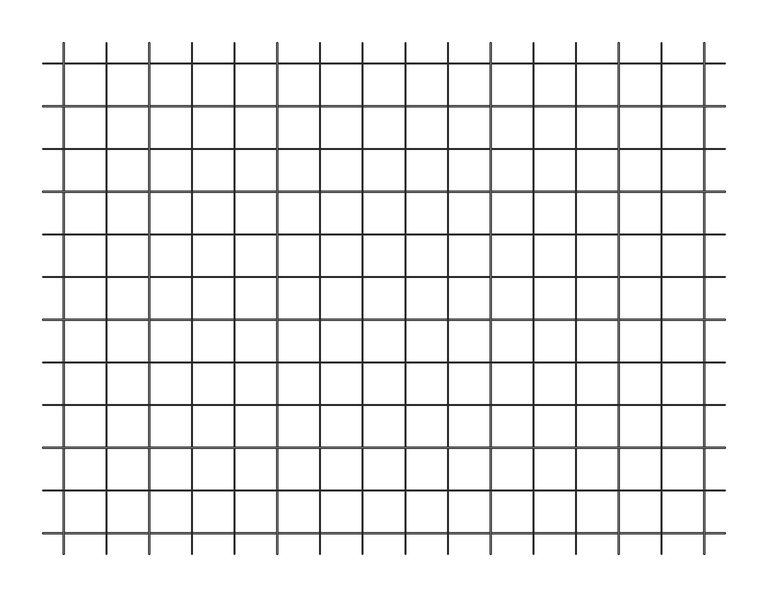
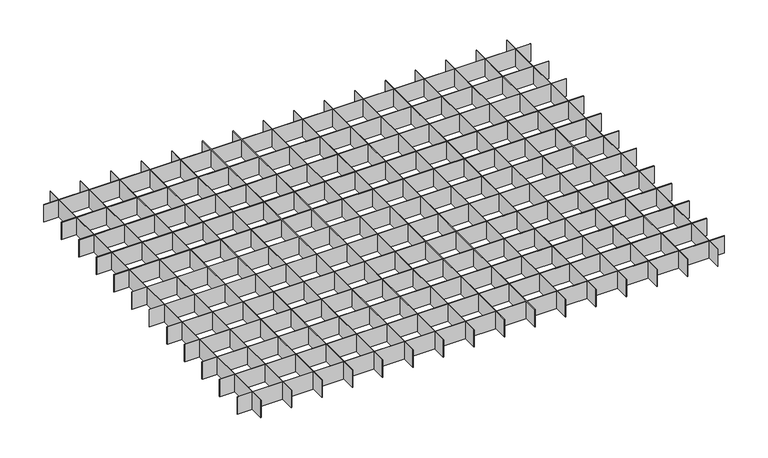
"""IFC4 building model written with IfcOpenShell, lengths in millimetres: proxy geometry, durlum_QUADRA_panel : durlum_QUADRA_length_cut."""

from ifc_helpers import new_model, si_unit, origin, origin_with_axes, place, context, project, spatial, polyline, outline, extrude, source, transform, mapped, element, save


def generic_models_9611325c(model_context):
    return source(origin(), model_context, "Body", "SweptSolid", [
        extrude(outline(polyline([(324.6, 299.5), (325.4, 299.5), (325.4, -299.5), (324.6, -299.5), (324.6, 299.5)])), origin_with_axes(), (0.0, 0.0, 1.0), 30.0),
        extrude(outline(polyline([(399.75, -224.6), (399.75, -225.4), (-399.75, -225.4), (-399.75, -224.6), (399.75, -224.6)])), origin_with_axes(), (0.0, 0.0, 1.0), 30.0),
        extrude(outline(polyline([(399.75, -174.6), (399.75, -175.4), (-399.75, -175.4), (-399.75, -174.6), (399.75, -174.6)])), origin_with_axes(), (0.0, 0.0, 1.0), 30.0),
        extrude(outline(polyline([(399.75, -124.6), (399.75, -125.4), (-399.75, -125.4), (-399.75, -124.6), (399.75, -124.6)])), origin_with_axes(), (0.0, 0.0, 1.0), 30.0),
        extrude(outline(polyline([(399.75, -74.6), (399.75, -75.4), (-399.75, -75.4), (-399.75, -74.6), (399.75, -74.6)])), origin_with_axes(), (0.0, 0.0, 1.0), 30.0),
        extrude(outline(polyline([(274.6, 299.5), (275.4, 299.5), (275.4, -299.5), (274.6, -299.5), (274.6, 299.5)])), origin_with_axes(), (0.0, 0.0, 1.0), 30.0),
        extrude(outline(polyline([(224.6, 299.5), (225.4, 299.5), (225.4, -299.5), (224.6, -299.5), (224.6, 299.5)])), origin_with_axes(), (0.0, 0.0, 1.0), 30.0),
        extrude(outline(polyline([(174.6, 299.5), (175.4, 299.5), (175.4, -299.5), (174.6, -299.5), (174.6, 299.5)])), origin_with_axes(), (0.0, 0.0, 1.0), 30.0),
        extrude(outline(polyline([(124.6, 299.5), (125.4, 299.5), (125.4, -299.5), (124.6, -299.5), (124.6, 299.5)])), origin_with_axes(), (0.0, 0.0, 1.0), 30.0),
        extrude(outline(polyline([(74.6, 299.5), (75.4, 299.5), (75.4, -299.5), (74.6, -299.5), (74.6, 299.5)])), origin_with_axes(), (0.0, 0.0, 1.0), 30.0),
        extrude(outline(polyline([(24.6, 299.5), (25.4, 299.5), (25.4, -299.5), (24.6, -299.5), (24.6, 299.5)])), origin_with_axes(), (0.0, 0.0, 1.0), 30.0),
        extrude(outline(polyline([(-25.4, 299.5), (-24.6, 299.5), (-24.6, -299.5), (-25.4, -299.5), (-25.4, 299.5)])), origin_with_axes(), (0.0, 0.0, 1.0), 30.0),
        extrude(outline(polyline([(-75.4, 299.5), (-74.6, 299.5), (-74.6, -299.5), (-75.4, -299.5), (-75.4, 299.5)])), origin_with_axes(), (0.0, 0.0, 1.0), 30.0),
        extrude(outline(polyline([(-125.4, 299.5), (-124.6, 299.5), (-124.6, -299.5), (-125.4, -299.5), (-125.4, 299.5)])), origin_with_axes(), (0.0, 0.0, 1.0), 30.0),
        extrude(outline(polyline([(-175.4, 299.5), (-174.6, 299.5), (-174.6, -299.5), (-175.4, -299.5), (-175.4, 299.5)])), origin_with_axes(), (0.0, 0.0, 1.0), 30.0),
        extrude(outline(polyline([(-225.4, 299.5), (-224.6, 299.5), (-224.6, -299.5), (-225.4, -299.5), (-225.4, 299.5)])), origin_with_axes(), (0.0, 0.0, 1.0), 30.0),
        extrude(outline(polyline([(-275.4, 299.5), (-274.6, 299.5), (-274.6, -299.5), (-275.4, -299.5), (-275.4, 299.5)])), origin_with_axes(), (0.0, 0.0, 1.0), 30.0),
        extrude(outline(polyline([(-325.4, 299.5), (-324.6, 299.5), (-324.6, -299.5), (-325.4, -299.5), (-325.4, 299.5)])), origin_with_axes(), (0.0, 0.0, 1.0), 30.0),
        extrude(outline(polyline([(399.75, -24.6), (399.75, -25.4), (-399.75, -25.4), (-399.75, -24.6), (399.75, -24.6)])), origin_with_axes(), (0.0, 0.0, 1.0), 30.0),
        extrude(outline(polyline([(399.75, 25.4), (399.75, 24.6), (-399.75, 24.6), (-399.75, 25.4), (399.75, 25.4)])), origin_with_axes(), (0.0, 0.0, 1.0), 30.0),
        extrude(outline(polyline([(399.75, 75.4), (399.75, 74.6), (-399.75, 74.6), (-399.75, 75.4), (399.75, 75.4)])), origin_with_axes(), (0.0, 0.0, 1.0), 30.0),
        extrude(outline(polyline([(399.75, 125.4), (399.75, 124.6), (-399.75, 124.6), (-399.75, 125.4), (399.75, 125.4)])), origin_with_axes(), (0.0, 0.0, 1.0), 30.0),
        extrude(outline(polyline([(399.75, 175.4), (399.75, 174.6), (-399.75, 174.6), (-399.75, 175.4), (399.75, 175.4)])), origin_with_axes(), (0.0, 0.0, 1.0), 30.0),
        extrude(outline(polyline([(399.75, 225.4), (399.75, 224.6), (-399.75, 224.6), (-399.75, 225.4), (399.75, 225.4)])), origin_with_axes(), (0.0, 0.0, 1.0), 30.0),
        extrude(outline(polyline([(374.6, 299.5), (375.4, 299.5), (375.4, -299.5), (374.6, -299.5), (374.6, 299.5)])), origin_with_axes(), (0.0, 0.0, 1.0), 30.0),
        extrude(outline(polyline([(-375.4, 299.5), (-374.6, 299.5), (-374.6, -299.5), (-375.4, -299.5), (-375.4, 299.5)])), origin_with_axes(), (0.0, 0.0, 1.0), 30.0),
        extrude(outline(polyline([(399.75, -274.6), (399.75, -275.4), (-399.75, -275.4), (-399.75, -274.6), (399.75, -274.6)])), origin_with_axes(), (0.0, 0.0, 1.0), 30.0),
        extrude(outline(polyline([(399.75, 275.4), (399.75, 274.6), (-399.75, 274.6), (-399.75, 275.4), (399.75, 275.4)])), origin_with_axes(), (0.0, 0.0, 1.0), 30.0),
    ])


if __name__ == "__main__":
    model = new_model("IFC4")
    model_context = context("Model", 3, world=origin())
    ifc_project = project(units=[si_unit("LENGTHUNIT", "METRE", prefix="MILLI")], contexts=[model_context])
    site = spatial("IfcSite", under=ifc_project)
    building = spatial("IfcBuilding", under=site)
    placement = place(None, origin())
    generic_models_shape = generic_models_9611325c(model_context)
    element("IfcBuildingElementProxy", 1, Name="durlum_QUADRA_panel : durlum_QUADRA_length_cut", ObjectType="durlum_QUADRA_panel : durlum_QUADRA_length_cut", at=placement, inside=building, context=model_context, shape_type="MappedRepresentation", body=[
        mapped(generic_models_shape, transform((0.0, 0.0, 0.0), x_axis=(1.0, 0.0, 0.0), y_axis=(0.0, 1.0, 0.0), z_axis=(0.0, 0.0, 1.0))),
    ])
    save(model, "model.ifc")
